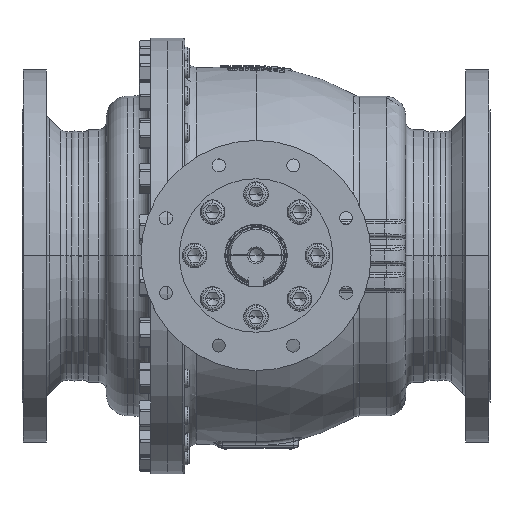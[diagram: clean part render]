
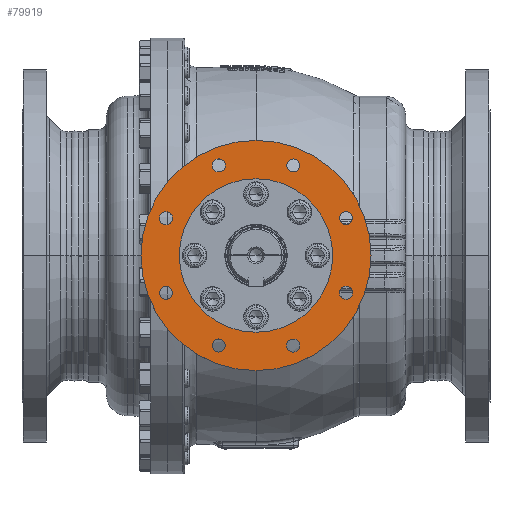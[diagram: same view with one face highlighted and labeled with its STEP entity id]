
A CAD part, top view. The second image highlights one B-rep face of the part: STEP entity #79919.
In plain terms, the highlighted planar face has unit normal (0, 0, 1).
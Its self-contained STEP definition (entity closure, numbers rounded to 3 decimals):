
#9639=CARTESIAN_POINT('',(0.,0.,376.));
#9640=DIRECTION('',(0.,0.,1.));
#9641=DIRECTION('',(0.,1.,0.));
#9642=AXIS2_PLACEMENT_3D('',#9639,#9640,#9641);
#9644=CARTESIAN_POINT('',(0.,0.,376.));
#9645=DIRECTION('',(0.,0.,-1.));
#9646=DIRECTION('',(0.,1.,0.));
#9647=AXIS2_PLACEMENT_3D('',#9644,#9645,#9646);
#9649=CARTESIAN_POINT('',(-48.601,-117.333,376.));
#9650=DIRECTION('',(0.,0.,-1.));
#9651=DIRECTION('',(0.,-1.,0.));
#9652=AXIS2_PLACEMENT_3D('',#9649,#9650,#9651);
#9654=CARTESIAN_POINT('',(-48.601,-117.333,376.));
#9655=DIRECTION('',(0.,0.,-1.));
#9656=DIRECTION('',(0.,1.,0.));
#9657=AXIS2_PLACEMENT_3D('',#9654,#9655,#9656);
#9659=CARTESIAN_POINT('',(-117.333,-48.601,376.));
#9660=DIRECTION('',(0.,0.,-1.));
#9661=DIRECTION('',(-0.707,-0.707,0.));
#9662=AXIS2_PLACEMENT_3D('',#9659,#9660,#9661);
#9664=CARTESIAN_POINT('',(-117.333,-48.601,376.));
#9665=DIRECTION('',(0.,0.,-1.));
#9666=DIRECTION('',(0.707,0.707,0.));
#9667=AXIS2_PLACEMENT_3D('',#9664,#9665,#9666);
#9669=CARTESIAN_POINT('',(-117.333,48.601,376.));
#9670=DIRECTION('',(0.,0.,-1.));
#9671=DIRECTION('',(-1.,0.,0.));
#9672=AXIS2_PLACEMENT_3D('',#9669,#9670,#9671);
#9674=CARTESIAN_POINT('',(-117.333,48.601,376.));
#9675=DIRECTION('',(0.,0.,-1.));
#9676=DIRECTION('',(1.,0.,0.));
#9677=AXIS2_PLACEMENT_3D('',#9674,#9675,#9676);
#9679=CARTESIAN_POINT('',(-48.601,117.333,376.));
#9680=DIRECTION('',(0.,0.,-1.));
#9681=DIRECTION('',(-0.707,0.707,0.));
#9682=AXIS2_PLACEMENT_3D('',#9679,#9680,#9681);
#9684=CARTESIAN_POINT('',(-48.601,117.333,376.));
#9685=DIRECTION('',(0.,0.,-1.));
#9686=DIRECTION('',(0.707,-0.707,0.));
#9687=AXIS2_PLACEMENT_3D('',#9684,#9685,#9686);
#9689=CARTESIAN_POINT('',(48.601,117.333,376.));
#9690=DIRECTION('',(0.,0.,-1.));
#9691=DIRECTION('',(0.,1.,0.));
#9692=AXIS2_PLACEMENT_3D('',#9689,#9690,#9691);
#9694=CARTESIAN_POINT('',(48.601,117.333,376.));
#9695=DIRECTION('',(0.,0.,-1.));
#9696=DIRECTION('',(0.,-1.,0.));
#9697=AXIS2_PLACEMENT_3D('',#9694,#9695,#9696);
#9699=CARTESIAN_POINT('',(117.333,48.601,376.));
#9700=DIRECTION('',(0.,0.,-1.));
#9701=DIRECTION('',(0.707,0.707,0.));
#9702=AXIS2_PLACEMENT_3D('',#9699,#9700,#9701);
#9704=CARTESIAN_POINT('',(117.333,48.601,376.));
#9705=DIRECTION('',(0.,0.,-1.));
#9706=DIRECTION('',(-0.707,-0.707,0.));
#9707=AXIS2_PLACEMENT_3D('',#9704,#9705,#9706);
#9709=CARTESIAN_POINT('',(117.333,-48.601,376.));
#9710=DIRECTION('',(0.,0.,-1.));
#9711=DIRECTION('',(1.,0.,0.));
#9712=AXIS2_PLACEMENT_3D('',#9709,#9710,#9711);
#9714=CARTESIAN_POINT('',(117.333,-48.601,376.));
#9715=DIRECTION('',(0.,0.,-1.));
#9716=DIRECTION('',(-1.,0.,0.));
#9717=AXIS2_PLACEMENT_3D('',#9714,#9715,#9716);
#9719=CARTESIAN_POINT('',(48.601,-117.333,376.));
#9720=DIRECTION('',(0.,0.,-1.));
#9721=DIRECTION('',(0.707,-0.707,0.));
#9722=AXIS2_PLACEMENT_3D('',#9719,#9720,#9721);
#9724=CARTESIAN_POINT('',(48.601,-117.333,376.));
#9725=DIRECTION('',(0.,0.,-1.));
#9726=DIRECTION('',(-0.707,0.707,0.));
#9727=AXIS2_PLACEMENT_3D('',#9724,#9725,#9726);
#9733=CARTESIAN_POINT('',(0.,0.,376.));
#9734=DIRECTION('',(0.,0.,-1.));
#9735=DIRECTION('',(0.,1.,0.));
#9736=AXIS2_PLACEMENT_3D('',#9733,#9734,#9735);
#9742=CARTESIAN_POINT('',(0.,0.,376.));
#9743=DIRECTION('',(0.,0.,1.));
#9744=DIRECTION('',(0.,1.,0.));
#9745=AXIS2_PLACEMENT_3D('',#9742,#9743,#9744);
#63018=CARTESIAN_POINT('',(0.,100.,376.));
#63020=VERTEX_POINT('',#63018);
#63022=CARTESIAN_POINT('',(0.,-100.,376.));
#63024=VERTEX_POINT('',#63022);
#63094=CARTESIAN_POINT('',(-48.601,-125.833,376.));
#63095=CARTESIAN_POINT('',(-48.601,-108.833,376.));
#63096=VERTEX_POINT('',#63094);
#63097=VERTEX_POINT('',#63095);
#63100=CARTESIAN_POINT('',(-123.343,-54.611,376.));
#63101=CARTESIAN_POINT('',(-111.322,-42.59,376.));
#63102=VERTEX_POINT('',#63100);
#63103=VERTEX_POINT('',#63101);
#63106=CARTESIAN_POINT('',(-125.833,48.601,376.));
#63107=CARTESIAN_POINT('',(-108.833,48.601,376.));
#63108=VERTEX_POINT('',#63106);
#63109=VERTEX_POINT('',#63107);
#63112=CARTESIAN_POINT('',(-54.611,123.343,376.));
#63113=CARTESIAN_POINT('',(-42.59,111.322,376.));
#63114=VERTEX_POINT('',#63112);
#63115=VERTEX_POINT('',#63113);
#63127=CARTESIAN_POINT('',(0.,150.,376.));
#63129=VERTEX_POINT('',#63127);
#63131=CARTESIAN_POINT('',(0.,-150.,376.));
#63133=VERTEX_POINT('',#63131);
#63142=CARTESIAN_POINT('',(48.601,125.833,376.));
#63143=CARTESIAN_POINT('',(48.601,108.833,376.));
#63144=VERTEX_POINT('',#63142);
#63145=VERTEX_POINT('',#63143);
#63150=CARTESIAN_POINT('',(123.343,54.611,376.));
#63151=CARTESIAN_POINT('',(111.322,42.59,376.));
#63152=VERTEX_POINT('',#63150);
#63153=VERTEX_POINT('',#63151);
#63158=CARTESIAN_POINT('',(125.833,-48.601,376.));
#63159=CARTESIAN_POINT('',(108.833,-48.601,376.));
#63160=VERTEX_POINT('',#63158);
#63161=VERTEX_POINT('',#63159);
#63166=CARTESIAN_POINT('',(54.611,-123.343,376.));
#63167=CARTESIAN_POINT('',(42.59,-111.322,376.));
#63168=VERTEX_POINT('',#63166);
#63169=VERTEX_POINT('',#63167);
#79856=CARTESIAN_POINT('',(0.,0.,376.));
#79857=DIRECTION('',(0.,0.,1.));
#79858=DIRECTION('',(0.,1.,0.));
#79859=AXIS2_PLACEMENT_3D('',#79856,#79857,#79858);
#79860=PLANE('',#79859);
#79861=ORIENTED_EDGE('',*,*,#79849,.F.);
#79862=ORIENTED_EDGE('',*,*,#79838,.T.);
#79863=EDGE_LOOP('',(#79861,#79862));
#79864=FACE_OUTER_BOUND('',#79863,.F.);
#79866=ORIENTED_EDGE('',*,*,#79865,.F.);
#79868=ORIENTED_EDGE('',*,*,#79867,.T.);
#79869=EDGE_LOOP('',(#79866,#79868));
#79870=FACE_BOUND('',#79869,.F.);
#79872=ORIENTED_EDGE('',*,*,#79871,.F.);
#79874=ORIENTED_EDGE('',*,*,#79873,.F.);
#79875=EDGE_LOOP('',(#79872,#79874));
#79876=FACE_BOUND('',#79875,.F.);
#79878=ORIENTED_EDGE('',*,*,#79877,.F.);
#79880=ORIENTED_EDGE('',*,*,#79879,.F.);
#79881=EDGE_LOOP('',(#79878,#79880));
#79882=FACE_BOUND('',#79881,.F.);
#79884=ORIENTED_EDGE('',*,*,#79883,.F.);
#79886=ORIENTED_EDGE('',*,*,#79885,.F.);
#79887=EDGE_LOOP('',(#79884,#79886));
#79888=FACE_BOUND('',#79887,.F.);
#79890=ORIENTED_EDGE('',*,*,#79889,.F.);
#79892=ORIENTED_EDGE('',*,*,#79891,.F.);
#79893=EDGE_LOOP('',(#79890,#79892));
#79894=FACE_BOUND('',#79893,.F.);
#79896=ORIENTED_EDGE('',*,*,#79895,.F.);
#79898=ORIENTED_EDGE('',*,*,#79897,.F.);
#79899=EDGE_LOOP('',(#79896,#79898));
#79900=FACE_BOUND('',#79899,.F.);
#79902=ORIENTED_EDGE('',*,*,#79901,.F.);
#79904=ORIENTED_EDGE('',*,*,#79903,.F.);
#79905=EDGE_LOOP('',(#79902,#79904));
#79906=FACE_BOUND('',#79905,.F.);
#79908=ORIENTED_EDGE('',*,*,#79907,.F.);
#79910=ORIENTED_EDGE('',*,*,#79909,.F.);
#79911=EDGE_LOOP('',(#79908,#79910));
#79912=FACE_BOUND('',#79911,.F.);
#79914=ORIENTED_EDGE('',*,*,#79913,.F.);
#79916=ORIENTED_EDGE('',*,*,#79915,.F.);
#79917=EDGE_LOOP('',(#79914,#79916));
#79918=FACE_BOUND('',#79917,.F.);
#79919=ADVANCED_FACE('',(#79864,#79870,#79876,#79882,#79888,#79894,#79900,
#79906,#79912,#79918),#79860,.T.);
#9643=CIRCLE('',#9642,150.);
#9648=CIRCLE('',#9647,150.);
#9653=CIRCLE('',#9652,8.5);
#9658=CIRCLE('',#9657,8.5);
#9663=CIRCLE('',#9662,8.5);
#9668=CIRCLE('',#9667,8.5);
#9673=CIRCLE('',#9672,8.5);
#9678=CIRCLE('',#9677,8.5);
#9683=CIRCLE('',#9682,8.5);
#9688=CIRCLE('',#9687,8.5);
#9693=CIRCLE('',#9692,8.5);
#9698=CIRCLE('',#9697,8.5);
#9703=CIRCLE('',#9702,8.5);
#9708=CIRCLE('',#9707,8.5);
#9713=CIRCLE('',#9712,8.5);
#9718=CIRCLE('',#9717,8.5);
#9723=CIRCLE('',#9722,8.5);
#9728=CIRCLE('',#9727,8.5);
#9737=CIRCLE('',#9736,100.);
#9746=CIRCLE('',#9745,100.);
#79838=EDGE_CURVE('',#63129,#63133,#9648,.T.);
#79849=EDGE_CURVE('',#63129,#63133,#9643,.T.);
#79865=EDGE_CURVE('',#63020,#63024,#9737,.T.);
#79867=EDGE_CURVE('',#63020,#63024,#9746,.T.);
#79871=EDGE_CURVE('',#63096,#63097,#9653,.T.);
#79873=EDGE_CURVE('',#63097,#63096,#9658,.T.);
#79877=EDGE_CURVE('',#63102,#63103,#9663,.T.);
#79879=EDGE_CURVE('',#63103,#63102,#9668,.T.);
#79883=EDGE_CURVE('',#63108,#63109,#9673,.T.);
#79885=EDGE_CURVE('',#63109,#63108,#9678,.T.);
#79889=EDGE_CURVE('',#63114,#63115,#9683,.T.);
#79891=EDGE_CURVE('',#63115,#63114,#9688,.T.);
#79895=EDGE_CURVE('',#63144,#63145,#9693,.T.);
#79897=EDGE_CURVE('',#63145,#63144,#9698,.T.);
#79901=EDGE_CURVE('',#63152,#63153,#9703,.T.);
#79903=EDGE_CURVE('',#63153,#63152,#9708,.T.);
#79907=EDGE_CURVE('',#63160,#63161,#9713,.T.);
#79909=EDGE_CURVE('',#63161,#63160,#9718,.T.);
#79913=EDGE_CURVE('',#63168,#63169,#9723,.T.);
#79915=EDGE_CURVE('',#63169,#63168,#9728,.T.);
